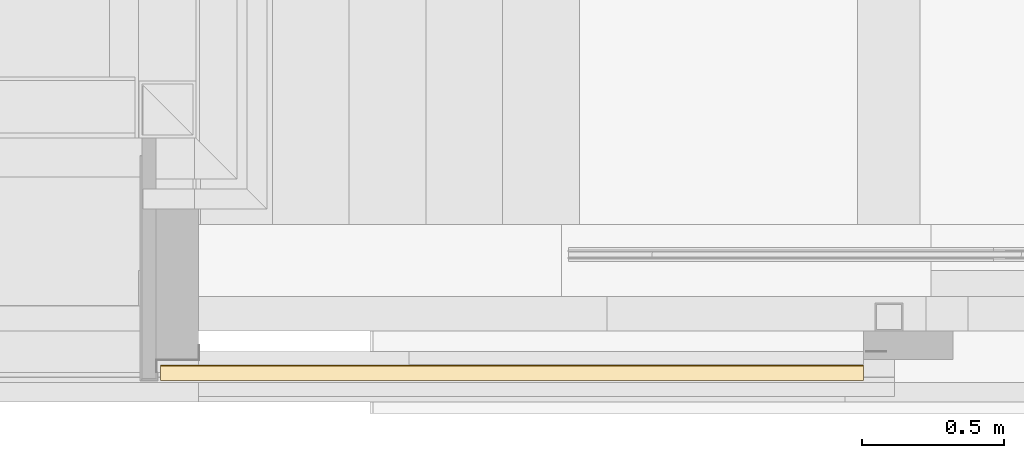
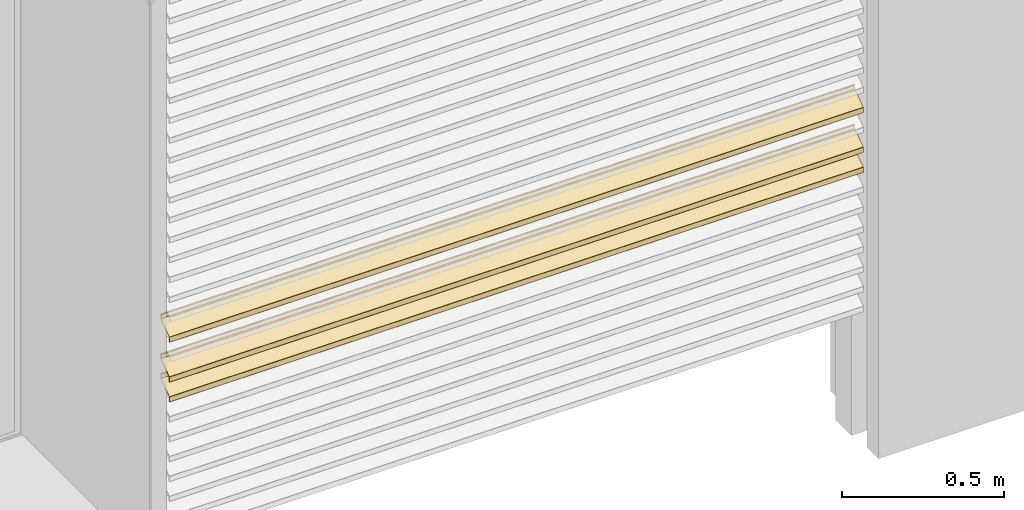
# One storey, part 104 of 165: 3 coverings, 1 element without a shape of its own.
"""IFC2X3 building model written with IfcOpenShell, lengths in millimetres."""

from ifc_helpers import new_model, entity, si_unit, converted_unit, derived_unit, money_unit, direction, frame, origin_with_axes, place, context, subcontext, project, spatial, faceted_brep, material, type_object, element, aggregate, save


model = new_model("IFC2X3")

# Units and contexts
model_context = context("Model", 3, precision=0.01, world=origin_with_axes(), true_north=direction((0.0, 1.0)))
body_context = subcontext(model_context, "Body", "Model", "MODEL_VIEW")
ifc_project = project(units=[si_unit("LENGTHUNIT", "METRE", prefix="MILLI"), si_unit("AREAUNIT", "SQUARE_METRE"), si_unit("VOLUMEUNIT", "CUBIC_METRE"), converted_unit("PLANEANGLEUNIT", "DEGREE", entity("IfcPlaneAngleMeasure", 0.0174532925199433), si_unit("PLANEANGLEUNIT", "RADIAN"), dimensions=[0, 0, 0, 0, 0, 0, 0]), money_unit("EUR"), converted_unit("TIMEUNIT", "Year", entity("IfcTimeMeasure", 31556926.0), si_unit("TIMEUNIT", "SECOND"), dimensions=[0, 0, 1, 0, 0, 0, 0]), si_unit("MASSUNIT", "GRAM", prefix="KILO"), si_unit("THERMODYNAMICTEMPERATUREUNIT", "DEGREE_CELSIUS"), si_unit("LUMINOUSINTENSITYUNIT", "LUMEN"), si_unit("ENERGYUNIT", "JOULE", prefix="MEGA"), derived_unit("THERMALCONDUCTANCEUNIT", [(si_unit("POWERUNIT", "WATT"), 1), (si_unit("LENGTHUNIT", "METRE"), -1), (si_unit("THERMODYNAMICTEMPERATUREUNIT", "KELVIN"), -1)]), derived_unit("SPECIFICHEATCAPACITYUNIT", [(si_unit("ENERGYUNIT", "JOULE"), 1), (si_unit("MASSUNIT", "GRAM", prefix="KILO"), -1), (si_unit("THERMODYNAMICTEMPERATUREUNIT", "KELVIN"), -1)]), derived_unit("MASSDENSITYUNIT", [(si_unit("MASSUNIT", "GRAM", prefix="KILO"), 1), (si_unit("VOLUMEUNIT", "CUBIC_METRE"), -1)])], contexts=[model_context])

# Site, building, storey
site_placement = place(None, origin_with_axes())
site = spatial("IfcSite", under=ifc_project, at=site_placement, Name="Site", CompositionType="ELEMENT")
building_placement = place(site_placement, origin_with_axes())
building = spatial("IfcBuilding", under=site, at=building_placement, Name="Naam gebouw", CompositionType="ELEMENT")
storey_placement = place(building_placement, origin_with_axes())
storey = spatial("IfcBuildingStorey", under=building, at=storey_placement, Name="Begane grond", CompositionType="ELEMENT", Elevation=0.0)

# Beam, coverings
beam_type = type_object("IfcBeamType", Name="30 Duco Louvre deur 55 x 2627", PredefinedType="BEAM")
beam_placement = place(storey_placement, frame((13900.0, -116.9904125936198, 0.0), z_axis=(0.0, 0.0, 1.0), x_axis=(0.0, 1.0, 0.0)))
beam = element("IfcBeam", 1, at=beam_placement, inside=storey, type_object=beam_type, Name="_Regenwaterafvoer-x", ObjectType="BEAM")
ifc_material = material(Name="Metaal - Aluminium")
covering_1_placement = place(beam_placement, origin_with_axes())
covering_1 = element("IfcCovering", 2, at=covering_1_placement, material=ifc_material, Name="Metaal - Aluminium", PredefinedType="NOTDEFINED", context=body_context, shape_type="Brep", body=[
    faceted_brep([(-4.027927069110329, 2473.999999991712, 683.6995018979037), (-56.57357643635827, 2473.999999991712, 646.9066421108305), (-56.57357643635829, 0.0, 646.9066421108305), (-4.027927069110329, 0.0, 683.6995018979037), (-3.900000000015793, 2473.999999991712, 683.9452475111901), (-3.900000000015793, 2473.999999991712, 699.1264285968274), (-3.975892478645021, 2473.999999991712, 699.325867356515), (-4.165172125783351, 2473.999999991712, 699.4244001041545), (-4.372072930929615, 2473.999999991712, 699.3721742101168), (-5.427927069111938, 2473.999999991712, 698.6328571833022), (-5.634827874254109, 2473.999999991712, 698.5806312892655), (-5.824107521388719, 2473.999999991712, 698.6791640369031), (-5.900000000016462, 2473.999999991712, 698.8786027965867), (-5.900000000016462, 2473.999999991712, 700.4656097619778), (-5.772072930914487, 2473.999999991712, 700.7113553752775), (-2.944145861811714, 2473.999999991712, 702.691491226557), (-2.530344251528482, 2473.999999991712, 702.7959430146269), (-2.15178495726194, 2473.999999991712, 702.5988775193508), (-2.000000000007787, 2473.999999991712, 702.199999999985), (-2.000000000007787, 2473.999999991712, 683.3205670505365), (-2.42642356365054, 2473.999999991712, 682.5014150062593), (-26.08018232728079, 2473.999999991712, 665.9388748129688), (-26.40000000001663, 2473.999999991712, 665.3245107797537), (-26.40000000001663, 2473.999999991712, 662.127817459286), (-26.61966991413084, 2473.999999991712, 661.5974873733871), (-28.0585786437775, 2473.999999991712, 660.158578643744), (-28.20000000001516, 2473.999999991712, 660.0999999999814), (-28.34142135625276, 2473.999999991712, 660.1585786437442), (-28.40000000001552, 2473.999999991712, 660.2999999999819), (-28.40000000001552, 2473.999999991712, 662.8737843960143), (-28.5897311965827, 2473.999999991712, 663.3723812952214), (-29.06293031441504, 2473.999999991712, 663.6187131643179), (-29.58018232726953, 2473.999999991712, 663.4881484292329), (-30.60000000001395, 2473.999999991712, 662.7740644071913), (-30.60000000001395, 2473.999999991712, 657.5999999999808), (-30.74644660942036, 2473.999999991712, 657.2464466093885), (-31.10000000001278, 2473.999999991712, 657.0999999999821), (-32.10000000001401, 2473.999999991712, 657.0999999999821), (-32.45355339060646, 2473.999999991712, 657.2464466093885), (-32.60000000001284, 2473.999999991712, 657.5999999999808), (-32.60000000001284, 2473.999999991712, 659.9329127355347), (-32.78973119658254, 2473.999999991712, 660.4315096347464), (-33.26293031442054, 2473.999999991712, 660.677841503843), (-33.78018232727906, 2473.999999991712, 660.547276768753), (-54.9720729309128, 2473.999999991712, 645.7085552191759), (-55.10000000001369, 2473.999999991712, 645.4628096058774), (-55.10000000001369, 2473.999999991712, 629.9735714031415), (-55.02410752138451, 2473.999999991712, 629.7741326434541), (-54.83482787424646, 2473.999999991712, 629.6755998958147), (-54.62792706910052, 2473.999999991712, 629.7278257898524), (-53.57207293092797, 2473.999999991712, 630.4671428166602), (-53.36517212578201, 2473.999999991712, 630.519368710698), (-53.17589247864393, 2473.999999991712, 630.4208359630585), (-53.1000000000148, 2473.999999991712, 630.2213972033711), (-53.1000000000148, 2473.999999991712, 628.6343902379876), (-53.22792706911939, 2473.999999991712, 628.3886446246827), (-56.05585413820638, 2473.999999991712, 626.4085087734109), (-56.46965574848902, 2473.999999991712, 626.3040569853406), (-56.84821504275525, 2473.999999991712, 626.5011224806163), (-57.00000000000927, 2473.999999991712, 626.8999999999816), (-57.00000000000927, 2473.999999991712, 646.0874900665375), (-57.00000000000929, 0.0, 646.0874900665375), (-57.00000000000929, 0.0, 626.8999999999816), (-56.84821504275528, 0.0, 626.5011224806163), (-56.46965574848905, 0.0, 626.3040569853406), (-56.05585413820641, 0.0, 626.4085087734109), (-53.22792706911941, 0.0, 628.3886446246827), (-53.10000000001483, 0.0, 628.6343902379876), (-53.10000000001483, 0.0, 630.2213972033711), (-53.17589247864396, 0.0, 630.4208359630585), (-53.36517212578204, 0.0, 630.519368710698), (-53.572072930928, 0.0, 630.4671428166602), (-54.62792706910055, 0.0, 629.7278257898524), (-54.83482787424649, 0.0, 629.6755998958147), (-55.02410752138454, 0.0, 629.7741326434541), (-55.10000000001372, 0.0, 629.9735714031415), (-55.10000000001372, 0.0, 645.4628096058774), (-54.97207293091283, 0.0, 645.7085552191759), (-33.78018232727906, 0.0, 660.547276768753), (-33.26293031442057, 0.0, 660.677841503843), (-32.78973119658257, 0.0, 660.4315096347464), (-32.60000000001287, 0.0, 659.9329127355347), (-32.60000000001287, 0.0, 657.5999999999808), (-32.45355339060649, 0.0, 657.2464466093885), (-32.10000000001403, 0.0, 657.0999999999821), (-31.10000000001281, 0.0, 657.0999999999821), (-30.74644660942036, 0.0, 657.2464466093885), (-30.60000000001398, 0.0, 657.5999999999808), (-30.60000000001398, 0.0, 662.7740644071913), (-29.58018232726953, 0.0, 663.4881484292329), (-29.06293031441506, 0.0, 663.6187131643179), (-28.5897311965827, 0.0, 663.3723812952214), (-28.40000000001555, 0.0, 662.8737843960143), (-28.40000000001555, 0.0, 660.2999999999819), (-28.34142135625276, 0.0, 660.1585786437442), (-28.20000000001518, 0.0, 660.0999999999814), (-28.0585786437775, 0.0, 660.158578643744), (-26.61966991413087, 0.0, 661.5974873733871), (-26.40000000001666, 0.0, 662.127817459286), (-26.40000000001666, 0.0, 665.3245107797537), (-26.08018232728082, 0.0, 665.9388748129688), (-2.42642356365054, 0.0, 682.5014150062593), (-2.000000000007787, 0.0, 683.3205670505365), (-2.000000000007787, 0.0, 702.199999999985), (-2.15178495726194, 0.0, 702.5988775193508), (-2.530344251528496, 0.0, 702.7959430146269), (-2.944145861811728, 0.0, 702.691491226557), (-5.772072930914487, 0.0, 700.7113553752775), (-5.900000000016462, 0.0, 700.4656097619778), (-5.900000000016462, 0.0, 698.8786027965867), (-5.824107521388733, 0.0, 698.6791640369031), (-5.634827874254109, 0.0, 698.5806312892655), (-5.427927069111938, 0.0, 698.6328571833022), (-4.372072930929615, 0.0, 699.3721742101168), (-4.165172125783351, 0.0, 699.4244001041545), (-3.975892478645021, 0.0, 699.325867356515), (-3.900000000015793, 0.0, 699.1264285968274), (-3.900000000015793, 0.0, 683.9452475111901)], [[[0, 1, 2, 3]], [[0, 4, 5, 6, 7, 8, 9, 10, 11, 12, 13, 14, 15, 16, 17, 18, 19, 20, 21, 22, 23, 24, 25, 26, 27, 28, 29, 30, 31, 32, 33, 34, 35, 36, 37, 38, 39, 40, 41, 42, 43, 44, 45, 46, 47, 48, 49, 50, 51, 52, 53, 54, 55, 56, 57, 58, 59, 60, 1]], [[1, 60, 61, 2]], [[3, 2, 61, 62, 63, 64, 65, 66, 67, 68, 69, 70, 71, 72, 73, 74, 75, 76, 77, 78, 79, 80, 81, 82, 83, 84, 85, 86, 87, 88, 89, 90, 91, 92, 93, 94, 95, 96, 97, 98, 99, 100, 101, 102, 103, 104, 105, 106, 107, 108, 109, 110, 111, 112, 113, 114, 115, 116, 117]], [[4, 0, 3, 117]], [[5, 4, 117, 116]], [[6, 5, 116, 115]], [[7, 6, 115, 114]], [[8, 7, 114, 113]], [[9, 8, 113, 112]], [[10, 9, 112, 111]], [[11, 10, 111, 110]], [[12, 11, 110, 109]], [[13, 12, 109, 108]], [[14, 13, 108, 107]], [[15, 14, 107, 106]], [[16, 15, 106, 105]], [[17, 16, 105, 104]], [[18, 17, 104, 103]], [[19, 18, 103, 102]], [[20, 19, 102, 101]], [[21, 20, 101, 100]], [[22, 21, 100, 99]], [[23, 22, 99, 98]], [[24, 23, 98, 97]], [[25, 24, 97, 96]], [[26, 25, 96, 95]], [[27, 26, 95, 94]], [[28, 27, 94, 93]], [[29, 28, 93, 92]], [[30, 29, 92, 91]], [[31, 30, 91, 90]], [[32, 31, 90, 89]], [[33, 32, 89, 88]], [[34, 33, 88, 87]], [[35, 34, 87, 86]], [[36, 35, 86, 85]], [[37, 36, 85, 84]], [[38, 37, 84, 83]], [[39, 38, 83, 82]], [[40, 39, 82, 81]], [[41, 40, 81, 80]], [[42, 41, 80, 79]], [[43, 42, 79, 78]], [[44, 43, 78, 77]], [[45, 44, 77, 76]], [[46, 45, 76, 75]], [[47, 46, 75, 74]], [[48, 47, 74, 73]], [[49, 48, 73, 72]], [[50, 49, 72, 71]], [[51, 50, 71, 70]], [[52, 51, 70, 69]], [[53, 52, 69, 68]], [[54, 53, 68, 67]], [[55, 54, 67, 66]], [[56, 55, 66, 65]], [[57, 56, 65, 64]], [[58, 57, 64, 63]], [[59, 58, 63, 62]], [[60, 59, 62, 61]]]),
])
covering_2_placement = place(beam_placement, origin_with_axes())
covering_2 = element("IfcCovering", 3, at=covering_2_placement, material=ifc_material, Name="Metaal - Aluminium", PredefinedType="NOTDEFINED", context=body_context, shape_type="Brep", body=[
    faceted_brep([(-4.027927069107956, 2473.999999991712, 608.6995018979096), (-56.57357643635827, 2473.999999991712, 571.9066421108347), (-56.57357643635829, 0.0, 571.9066421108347), (-4.02792706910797, 0.0, 608.6995018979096), (-3.90000000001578, 2473.999999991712, 608.9452475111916), (-3.90000000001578, 2473.999999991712, 624.1264285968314), (-3.975892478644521, 2473.999999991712, 624.3258673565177), (-4.165172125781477, 2473.999999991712, 624.4244001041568), (-4.372072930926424, 2473.999999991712, 624.3721742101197), (-5.427927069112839, 2473.999999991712, 623.6328571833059), (-5.634827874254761, 2473.999999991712, 623.5806312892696), (-5.824107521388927, 2473.999999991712, 623.6791640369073), (-5.900000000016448, 2473.999999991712, 623.8786027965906), (-5.900000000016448, 2473.999999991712, 625.4656097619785), (-5.772072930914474, 2473.999999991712, 625.7113553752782), (-2.944145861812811, 2473.999999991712, 627.6914912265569), (-2.530344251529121, 2473.999999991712, 627.795943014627), (-2.151784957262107, 2473.999999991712, 627.5988775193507), (-2.000000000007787, 2473.999999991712, 627.1999999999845), (-2.000000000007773, 2473.999999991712, 608.3205670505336), (-2.426423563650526, 2473.999999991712, 607.5014150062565), (-26.08018232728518, 2473.999999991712, 590.938874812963), (-26.40000000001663, 2473.999999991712, 590.3245107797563), (-26.40000000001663, 2473.999999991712, 587.1278174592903), (-26.61966991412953, 2473.999999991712, 586.5974873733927), (-28.05857864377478, 2473.999999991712, 585.1585786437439), (-28.20000000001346, 2473.999999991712, 585.0999999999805), (-28.34142135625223, 2473.999999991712, 585.1585786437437), (-28.40000000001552, 2473.999999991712, 585.2999999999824), (-28.40000000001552, 2473.999999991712, 587.8737843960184), (-28.58973119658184, 2473.999999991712, 588.3723812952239), (-29.06293031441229, 2473.999999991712, 588.6187131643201), (-29.58018232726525, 2473.999999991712, 588.4881484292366), (-30.60000000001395, 2473.999999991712, 587.7740644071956), (-30.60000000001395, 2473.999999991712, 582.5999999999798), (-30.74644660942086, 2473.999999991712, 582.2464466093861), (-31.10000000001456, 2473.999999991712, 582.0999999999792), (-32.10000000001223, 2473.999999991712, 582.0999999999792), (-32.45355339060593, 2473.999999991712, 582.2464466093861), (-32.60000000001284, 2473.999999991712, 582.5999999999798), (-32.60000000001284, 2473.999999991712, 584.9329127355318), (-32.78973119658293, 2473.999999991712, 585.4315096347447), (-33.26293031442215, 2473.999999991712, 585.6778415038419), (-33.780182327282, 2473.999999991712, 585.5472767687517), (-54.97207293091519, 2473.999999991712, 570.7085552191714), (-55.10000000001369, 2473.999999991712, 570.4628096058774), (-55.10000000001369, 2473.999999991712, 554.9735714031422), (-55.02410752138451, 2473.999999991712, 554.7741326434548), (-54.83482787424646, 2473.999999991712, 554.6755998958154), (-54.62792706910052, 2473.999999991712, 554.7278257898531), (-53.57207293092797, 2473.999999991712, 555.4671428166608), (-53.36517212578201, 2473.999999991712, 555.5193687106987), (-53.17589247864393, 2473.999999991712, 555.4208359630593), (-53.1000000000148, 2473.999999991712, 555.2213972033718), (-53.1000000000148, 2473.999999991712, 553.6343902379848), (-53.22792706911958, 2473.999999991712, 553.3886446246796), (-56.05585413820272, 2473.999999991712, 551.408508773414), (-56.46965574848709, 2473.999999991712, 551.3040569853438), (-56.8482150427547, 2473.999999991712, 551.5011224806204), (-57.00000000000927, 2473.999999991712, 551.8999999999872), (-57.00000000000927, 2473.999999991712, 571.0874900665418), (-57.00000000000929, 0.0, 571.0874900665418), (-57.00000000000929, 0.0, 551.8999999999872), (-56.84821504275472, 0.0, 551.5011224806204), (-56.46965574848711, 0.0, 551.3040569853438), (-56.05585413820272, 0.0, 551.408508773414), (-53.22792706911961, 0.0, 553.3886446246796), (-53.10000000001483, 0.0, 553.6343902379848), (-53.10000000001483, 0.0, 555.2213972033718), (-53.17589247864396, 0.0, 555.4208359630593), (-53.36517212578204, 0.0, 555.5193687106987), (-53.572072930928, 0.0, 555.4671428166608), (-54.62792706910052, 0.0, 554.7278257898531), (-54.83482787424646, 0.0, 554.6755998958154), (-55.02410752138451, 0.0, 554.7741326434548), (-55.10000000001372, 0.0, 554.9735714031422), (-55.10000000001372, 0.0, 570.4628096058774), (-54.97207293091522, 0.0, 570.7085552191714), (-33.78018232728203, 0.0, 585.5472767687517), (-33.26293031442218, 0.0, 585.6778415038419), (-32.78973119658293, 0.0, 585.4315096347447), (-32.60000000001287, 0.0, 584.9329127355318), (-32.60000000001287, 0.0, 582.5999999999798), (-32.45355339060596, 0.0, 582.2464466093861), (-32.10000000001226, 0.0, 582.0999999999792), (-31.10000000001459, 0.0, 582.0999999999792), (-30.74644660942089, 0.0, 582.2464466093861), (-30.60000000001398, 0.0, 582.5999999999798), (-30.60000000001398, 0.0, 587.7740644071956), (-29.58018232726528, 0.0, 588.4881484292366), (-29.06293031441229, 0.0, 588.6187131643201), (-28.58973119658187, 0.0, 588.3723812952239), (-28.40000000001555, 0.0, 587.8737843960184), (-28.40000000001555, 0.0, 585.2999999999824), (-28.34142135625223, 0.0, 585.1585786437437), (-28.20000000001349, 0.0, 585.0999999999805), (-28.05857864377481, 0.0, 585.1585786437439), (-26.61966991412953, 0.0, 586.5974873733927), (-26.40000000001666, 0.0, 587.1278174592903), (-26.40000000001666, 0.0, 590.3245107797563), (-26.08018232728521, 0.0, 590.938874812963), (-2.42642356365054, 0.0, 607.5014150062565), (-2.000000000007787, 0.0, 608.3205670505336), (-2.000000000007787, 0.0, 627.1999999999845), (-2.15178495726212, 0.0, 627.5988775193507), (-2.530344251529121, 0.0, 627.795943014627), (-2.944145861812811, 0.0, 627.6914912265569), (-5.772072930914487, 0.0, 625.7113553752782), (-5.900000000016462, 0.0, 625.4656097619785), (-5.900000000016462, 0.0, 623.8786027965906), (-5.824107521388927, 0.0, 623.6791640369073), (-5.634827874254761, 0.0, 623.5806312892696), (-5.427927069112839, 0.0, 623.6328571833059), (-4.372072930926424, 0.0, 624.3721742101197), (-4.165172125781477, 0.0, 624.4244001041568), (-3.975892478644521, 0.0, 624.3258673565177), (-3.900000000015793, 0.0, 624.1264285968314), (-3.900000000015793, 0.0, 608.9452475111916)], [[[0, 1, 2, 3]], [[0, 4, 5, 6, 7, 8, 9, 10, 11, 12, 13, 14, 15, 16, 17, 18, 19, 20, 21, 22, 23, 24, 25, 26, 27, 28, 29, 30, 31, 32, 33, 34, 35, 36, 37, 38, 39, 40, 41, 42, 43, 44, 45, 46, 47, 48, 49, 50, 51, 52, 53, 54, 55, 56, 57, 58, 59, 60, 1]], [[1, 60, 61, 2]], [[3, 2, 61, 62, 63, 64, 65, 66, 67, 68, 69, 70, 71, 72, 73, 74, 75, 76, 77, 78, 79, 80, 81, 82, 83, 84, 85, 86, 87, 88, 89, 90, 91, 92, 93, 94, 95, 96, 97, 98, 99, 100, 101, 102, 103, 104, 105, 106, 107, 108, 109, 110, 111, 112, 113, 114, 115, 116, 117]], [[4, 0, 3, 117]], [[5, 4, 117, 116]], [[6, 5, 116, 115]], [[7, 6, 115, 114]], [[8, 7, 114, 113]], [[9, 8, 113, 112]], [[10, 9, 112, 111]], [[11, 10, 111, 110]], [[12, 11, 110, 109]], [[13, 12, 109, 108]], [[14, 13, 108, 107]], [[15, 14, 107, 106]], [[16, 15, 106, 105]], [[17, 16, 105, 104]], [[18, 17, 104, 103]], [[19, 18, 103, 102]], [[20, 19, 102, 101]], [[21, 20, 101, 100]], [[22, 21, 100, 99]], [[23, 22, 99, 98]], [[24, 23, 98, 97]], [[25, 24, 97, 96]], [[26, 25, 96, 95]], [[27, 26, 95, 94]], [[28, 27, 94, 93]], [[29, 28, 93, 92]], [[30, 29, 92, 91]], [[31, 30, 91, 90]], [[32, 31, 90, 89]], [[33, 32, 89, 88]], [[34, 33, 88, 87]], [[35, 34, 87, 86]], [[36, 35, 86, 85]], [[37, 36, 85, 84]], [[38, 37, 84, 83]], [[39, 38, 83, 82]], [[40, 39, 82, 81]], [[41, 40, 81, 80]], [[42, 41, 80, 79]], [[43, 42, 79, 78]], [[44, 43, 78, 77]], [[45, 44, 77, 76]], [[46, 45, 76, 75]], [[47, 46, 75, 74]], [[48, 47, 74, 73]], [[49, 48, 73, 72]], [[50, 49, 72, 71]], [[51, 50, 71, 70]], [[52, 51, 70, 69]], [[53, 52, 69, 68]], [[54, 53, 68, 67]], [[55, 54, 67, 66]], [[56, 55, 66, 65]], [[57, 56, 65, 64]], [[58, 57, 64, 63]], [[59, 58, 63, 62]], [[60, 59, 62, 61]]]),
])
covering_3_placement = place(beam_placement, origin_with_axes())
covering_3 = element("IfcCovering", 4, at=covering_3_placement, material=ifc_material, Name="Metaal - Aluminium", PredefinedType="NOTDEFINED", context=body_context, shape_type="Brep", body=[
    faceted_brep([(-4.027927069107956, 2473.999999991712, 833.6995018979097), (-56.57357643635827, 2473.999999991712, 796.9066421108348), (-56.57357643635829, 0.0, 796.9066421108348), (-4.02792706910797, 0.0, 833.6995018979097), (-3.90000000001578, 2473.999999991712, 833.9452475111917), (-3.900000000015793, 2473.999999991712, 849.1264285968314), (-3.975892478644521, 2473.999999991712, 849.3258673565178), (-4.165172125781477, 2473.999999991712, 849.4244001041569), (-4.372072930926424, 2473.999999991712, 849.3721742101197), (-5.427927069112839, 2473.999999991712, 848.632857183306), (-5.634827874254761, 2473.999999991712, 848.5806312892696), (-5.824107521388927, 2473.999999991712, 848.6791640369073), (-5.900000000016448, 2473.999999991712, 848.8786027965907), (-5.900000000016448, 2473.999999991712, 850.4656097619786), (-5.772072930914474, 2473.999999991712, 850.7113553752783), (-2.944145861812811, 2473.999999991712, 852.691491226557), (-2.530344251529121, 2473.999999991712, 852.7959430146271), (-2.151784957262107, 2473.999999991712, 852.5988775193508), (-2.000000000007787, 2473.999999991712, 852.1999999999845), (-2.000000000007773, 2473.999999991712, 833.3205670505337), (-2.426423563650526, 2473.999999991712, 832.5014150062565), (-26.08018232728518, 2473.999999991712, 815.9388748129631), (-26.40000000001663, 2473.999999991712, 815.3245107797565), (-26.40000000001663, 2473.999999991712, 812.1278174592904), (-26.61966991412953, 2473.999999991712, 811.5974873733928), (-28.05857864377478, 2473.999999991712, 810.158578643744), (-28.20000000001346, 2473.999999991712, 810.0999999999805), (-28.34142135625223, 2473.999999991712, 810.1585786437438), (-28.40000000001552, 2473.999999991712, 810.2999999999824), (-28.40000000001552, 2473.999999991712, 812.8737843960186), (-28.58973119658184, 2473.999999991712, 813.372381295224), (-29.06293031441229, 2473.999999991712, 813.6187131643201), (-29.58018232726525, 2473.999999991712, 813.4881484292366), (-30.60000000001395, 2473.999999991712, 812.7740644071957), (-30.60000000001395, 2473.999999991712, 807.5999999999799), (-30.74644660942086, 2473.999999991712, 807.2464466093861), (-31.10000000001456, 2473.999999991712, 807.0999999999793), (-32.10000000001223, 2473.999999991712, 807.0999999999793), (-32.45355339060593, 2473.999999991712, 807.2464466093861), (-32.60000000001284, 2473.999999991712, 807.5999999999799), (-32.60000000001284, 2473.999999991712, 809.9329127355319), (-32.78973119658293, 2473.999999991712, 810.4315096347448), (-33.26293031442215, 2473.999999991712, 810.677841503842), (-33.780182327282, 2473.999999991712, 810.5472767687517), (-54.97207293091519, 2473.999999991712, 795.7085552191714), (-55.10000000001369, 2473.999999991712, 795.4628096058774), (-55.10000000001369, 2473.999999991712, 779.9735714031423), (-55.02410752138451, 2473.999999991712, 779.7741326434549), (-54.83482787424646, 2473.999999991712, 779.6755998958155), (-54.62792706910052, 2473.999999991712, 779.7278257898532), (-53.57207293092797, 2473.999999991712, 780.467142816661), (-53.36517212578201, 2473.999999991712, 780.5193687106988), (-53.17589247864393, 2473.999999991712, 780.4208359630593), (-53.1000000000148, 2473.999999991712, 780.2213972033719), (-53.1000000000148, 2473.999999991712, 778.6343902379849), (-53.22792706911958, 2473.999999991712, 778.3886446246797), (-56.05585413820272, 2473.999999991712, 776.4085087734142), (-56.46965574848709, 2473.999999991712, 776.3040569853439), (-56.8482150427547, 2473.999999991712, 776.5011224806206), (-57.00000000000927, 2473.999999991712, 776.8999999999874), (-57.00000000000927, 2473.999999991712, 796.0874900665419), (-57.00000000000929, 0.0, 796.0874900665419), (-57.00000000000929, 0.0, 776.8999999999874), (-56.84821504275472, 0.0, 776.5011224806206), (-56.46965574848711, 0.0, 776.3040569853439), (-56.05585413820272, 0.0, 776.4085087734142), (-53.22792706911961, 0.0, 778.3886446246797), (-53.10000000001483, 0.0, 778.6343902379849), (-53.10000000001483, 0.0, 780.2213972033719), (-53.17589247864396, 0.0, 780.4208359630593), (-53.36517212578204, 0.0, 780.5193687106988), (-53.572072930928, 0.0, 780.467142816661), (-54.62792706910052, 0.0, 779.7278257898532), (-54.83482787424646, 0.0, 779.6755998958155), (-55.02410752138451, 0.0, 779.7741326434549), (-55.10000000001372, 0.0, 779.9735714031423), (-55.10000000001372, 0.0, 795.4628096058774), (-54.97207293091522, 0.0, 795.7085552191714), (-33.78018232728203, 0.0, 810.5472767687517), (-33.26293031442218, 0.0, 810.677841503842), (-32.78973119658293, 0.0, 810.4315096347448), (-32.60000000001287, 0.0, 809.9329127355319), (-32.60000000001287, 0.0, 807.5999999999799), (-32.45355339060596, 0.0, 807.2464466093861), (-32.10000000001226, 0.0, 807.0999999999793), (-31.10000000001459, 0.0, 807.0999999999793), (-30.74644660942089, 0.0, 807.2464466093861), (-30.60000000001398, 0.0, 807.5999999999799), (-30.60000000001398, 0.0, 812.7740644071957), (-29.58018232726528, 0.0, 813.4881484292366), (-29.06293031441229, 0.0, 813.6187131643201), (-28.58973119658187, 0.0, 813.372381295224), (-28.40000000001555, 0.0, 812.8737843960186), (-28.40000000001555, 0.0, 810.2999999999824), (-28.34142135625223, 0.0, 810.1585786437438), (-28.20000000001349, 0.0, 810.0999999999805), (-28.05857864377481, 0.0, 810.158578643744), (-26.61966991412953, 0.0, 811.5974873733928), (-26.40000000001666, 0.0, 812.1278174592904), (-26.40000000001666, 0.0, 815.3245107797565), (-26.08018232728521, 0.0, 815.9388748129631), (-2.42642356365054, 0.0, 832.5014150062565), (-2.000000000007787, 0.0, 833.3205670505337), (-2.000000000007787, 0.0, 852.1999999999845), (-2.15178495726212, 0.0, 852.5988775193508), (-2.530344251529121, 0.0, 852.7959430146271), (-2.944145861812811, 0.0, 852.691491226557), (-5.772072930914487, 0.0, 850.7113553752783), (-5.900000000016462, 0.0, 850.4656097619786), (-5.900000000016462, 0.0, 848.8786027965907), (-5.824107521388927, 0.0, 848.6791640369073), (-5.634827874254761, 0.0, 848.5806312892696), (-5.427927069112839, 0.0, 848.632857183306), (-4.372072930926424, 0.0, 849.3721742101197), (-4.165172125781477, 0.0, 849.4244001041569), (-3.975892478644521, 0.0, 849.3258673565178), (-3.900000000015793, 0.0, 849.1264285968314), (-3.900000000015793, 0.0, 833.9452475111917)], [[[0, 1, 2, 3]], [[0, 4, 5, 6, 7, 8, 9, 10, 11, 12, 13, 14, 15, 16, 17, 18, 19, 20, 21, 22, 23, 24, 25, 26, 27, 28, 29, 30, 31, 32, 33, 34, 35, 36, 37, 38, 39, 40, 41, 42, 43, 44, 45, 46, 47, 48, 49, 50, 51, 52, 53, 54, 55, 56, 57, 58, 59, 60, 1]], [[1, 60, 61, 2]], [[3, 2, 61, 62, 63, 64, 65, 66, 67, 68, 69, 70, 71, 72, 73, 74, 75, 76, 77, 78, 79, 80, 81, 82, 83, 84, 85, 86, 87, 88, 89, 90, 91, 92, 93, 94, 95, 96, 97, 98, 99, 100, 101, 102, 103, 104, 105, 106, 107, 108, 109, 110, 111, 112, 113, 114, 115, 116, 117]], [[4, 0, 3, 117]], [[5, 4, 117, 116]], [[6, 5, 116, 115]], [[7, 6, 115, 114]], [[8, 7, 114, 113]], [[9, 8, 113, 112]], [[10, 9, 112, 111]], [[11, 10, 111, 110]], [[12, 11, 110, 109]], [[13, 12, 109, 108]], [[14, 13, 108, 107]], [[15, 14, 107, 106]], [[16, 15, 106, 105]], [[17, 16, 105, 104]], [[18, 17, 104, 103]], [[19, 18, 103, 102]], [[20, 19, 102, 101]], [[21, 20, 101, 100]], [[22, 21, 100, 99]], [[23, 22, 99, 98]], [[24, 23, 98, 97]], [[25, 24, 97, 96]], [[26, 25, 96, 95]], [[27, 26, 95, 94]], [[28, 27, 94, 93]], [[29, 28, 93, 92]], [[30, 29, 92, 91]], [[31, 30, 91, 90]], [[32, 31, 90, 89]], [[33, 32, 89, 88]], [[34, 33, 88, 87]], [[35, 34, 87, 86]], [[36, 35, 86, 85]], [[37, 36, 85, 84]], [[38, 37, 84, 83]], [[39, 38, 83, 82]], [[40, 39, 82, 81]], [[41, 40, 81, 80]], [[42, 41, 80, 79]], [[43, 42, 79, 78]], [[44, 43, 78, 77]], [[45, 44, 77, 76]], [[46, 45, 76, 75]], [[47, 46, 75, 74]], [[48, 47, 74, 73]], [[49, 48, 73, 72]], [[50, 49, 72, 71]], [[51, 50, 71, 70]], [[52, 51, 70, 69]], [[53, 52, 69, 68]], [[54, 53, 68, 67]], [[55, 54, 67, 66]], [[56, 55, 66, 65]], [[57, 56, 65, 64]], [[58, 57, 64, 63]], [[59, 58, 63, 62]], [[60, 59, 62, 61]]]),
])
aggregate(beam, [covering_1, covering_2, covering_3])

save(model, "model.ifc")
